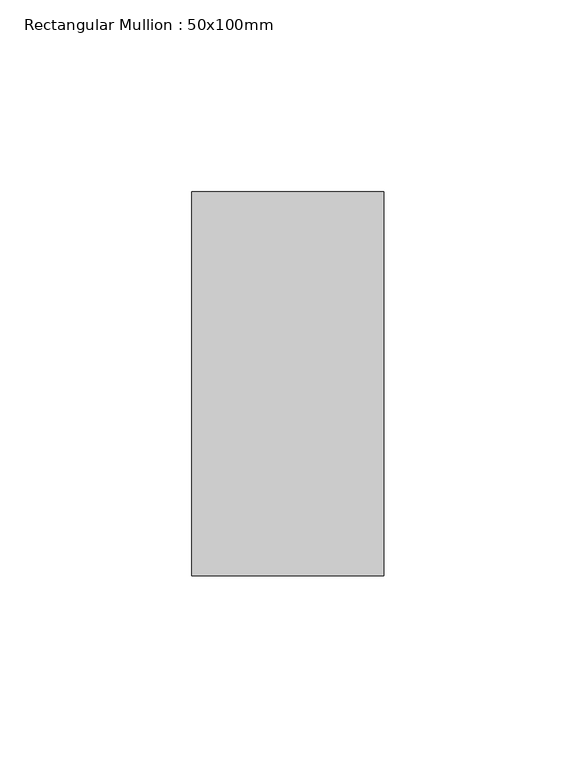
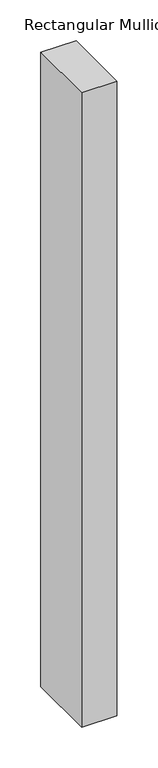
"""IFC4 building model written with IfcOpenShell, lengths in millimetres: member geometry, Rectangular Mullion : 50x100mm."""

from ifc_helpers import new_model, si_unit, frame, origin, place, context, project, spatial, polyline, outline, extrude, source, transform, mapped, element, save


def rectangular_mullion_50x100mm_1df8bd6f(model_context):
    return source(origin(), model_context, "Body", "SweptSolid", [
        extrude(outline(polyline([(25.0, 50.0), (25.0, -50.0), (-25.0, -50.0), (-25.0, 50.0), (25.0, 50.0)])), frame((0.0, 0.0, -949.1815984), z_axis=(0.0, 0.0, 1.0), x_axis=(1.0, 0.0, 0.0)), (0.0, 0.0, 1.0), 949.1815984),
    ])


if __name__ == "__main__":
    model = new_model("IFC4")
    model_context = context("Model", 3, world=origin())
    ifc_project = project(units=[si_unit("LENGTHUNIT", "METRE", prefix="MILLI")], contexts=[model_context])
    site = spatial("IfcSite", under=ifc_project)
    building = spatial("IfcBuilding", under=site)
    placement = place(None, origin())
    rectangular_mullion_50x100mm_shape = rectangular_mullion_50x100mm_1df8bd6f(model_context)
    element("IfcMember", 1, ObjectType="Rectangular Mullion : 50x100mm", at=placement, inside=building, context=model_context, shape_type="MappedRepresentation", body=[
        mapped(rectangular_mullion_50x100mm_shape, transform((0.0, 0.0, 0.0), x_axis=(1.0, 0.0, 0.0), y_axis=(0.0, 1.0, 0.0), z_axis=(0.0, 0.0, 1.0))),
    ])
    save(model, "model.ifc")
